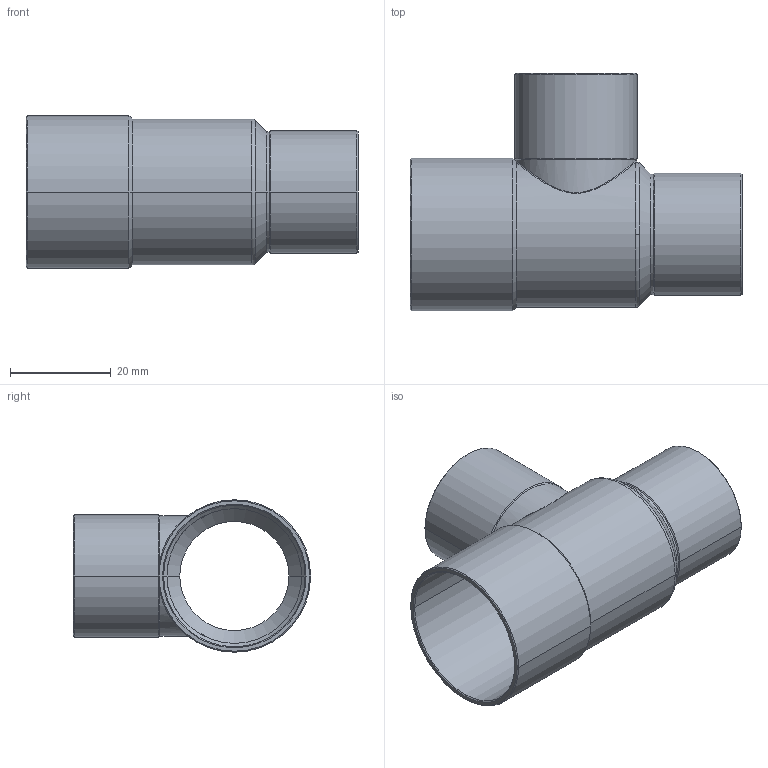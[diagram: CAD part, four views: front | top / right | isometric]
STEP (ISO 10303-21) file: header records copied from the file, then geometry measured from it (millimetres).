
FILE_DESCRIPTION((''),'2;1');
FILE_NAME('G:\Technics\CAD\Bauteile\15130\15130282222.stp','2005-11-03T13:42:46',('boden'),(''),'Autodesk Inventor 8','Autodesk Inventor 8','');
FILE_SCHEMA(('AUTOMOTIVE_DESIGN { 1 0 10303 214 1 1 1 1 }'));
Length unit declared in the file: millimetre
Products named in the file (1): 15130282222
Bounding box: 66 x 47.16 x 30.32 mm (x, y, z)
Volume: 7410.8 mm3; surface area: 13702.1 mm2
Topology: 1 solids, 1 shells, 60 faces, 133 edges, 74 vertices
Faces by surface type: cone 28, cylinder 24, torus 3, plane 3, bspline 2
Entity records: 2089 total; most frequent: CARTESIAN_POINT 728, DIRECTION 304, ORIENTED_EDGE 266, EDGE_CURVE 133, AXIS2_PLACEMENT_3D 126, VERTEX_POINT 74, CIRCLE 67, EDGE_LOOP 63
